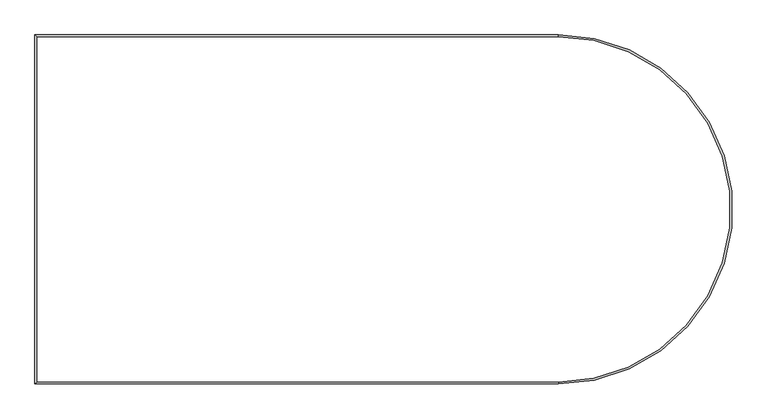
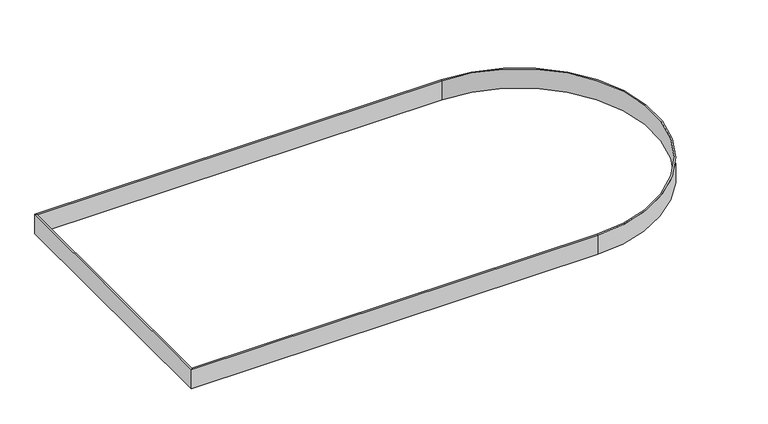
"""IFC4 building model written with IfcOpenShell, lengths in millimetres: railing geometry, ROLS_ISOMARKET_Лента демпферная Energofloor 10/0,15-11."""

from ifc_helpers import new_model, si_unit, frame, origin, place, context, project, spatial, polyline, circle_curve, source, transform, mapped, element, save
from ifc_brep_helpers import plane_surface, cylinder_surface, revolved_surface, advanced_brep


def railing_875232dc(model_context):
    return source(origin(), model_context, "Body", "AdvancedBrep", [
        advanced_brep(
        [(-17115.4270794, 14792.1606264, 0.0), (-17105.4270794, 14782.1606264, 0.0), (-17105.4270794, 12802.1606264, 0.0), (-17115.4270794, 12792.1606264, 0.0), (-17115.4270794, 14792.1606264, 150.0), (-17115.4270794, 12792.1606264, 150.0), (-17105.4270794, 14782.1606264, 150.0), (-17105.4270794, 12802.1606264, 150.0), (-14115.4270794, 12802.1606264, 0.0), (-14115.4270794, 12792.1606264, 0.0), (-14115.4270794, 12792.1606264, 150.0), (-14115.4270794, 12802.1606264, 150.0), (-14115.4270794, 14792.1606264, 0.0), (-14115.4270794, 14782.1606264, 0.0), (-14115.4270794, 14792.1606264, 150.0), (-14115.4270794, 14782.1606264, 150.0)],
        [
            (0, 1),
            (1, 2),
            (2, 3),
            (3, 0),
            (4, 0),
            (3, 5),
            (5, 4),
            (6, 4),
            (5, 7),
            (7, 6),
            (1, 6),
            (7, 2),
            (2, 8),
            (8, 9),
            (9, 3),
            (9, 10),
            (10, 5),
            (10, 11),
            (11, 7),
            (11, 8),
            (12, 9, circle_curve(frame((-14115.4270794, 13792.1606264, 0.0), z_axis=(0.0, 0.0, -1.0), x_axis=(0.0, -1.0, 0.0)), 1000.0)),
            (8, 13, circle_curve(frame((-14115.4270794, 13792.1606264, 0.0), z_axis=(0.0, 0.0, 1.0), x_axis=(0.0, -1.0, 0.0)), 990.0)),
            (13, 12),
            (14, 10, circle_curve(frame((-14115.4270794, 13792.1606264, 150.0), z_axis=(0.0, 0.0, -1.0), x_axis=(0.0, -1.0, 0.0)), 1000.0)),
            (12, 14),
            (15, 11, circle_curve(frame((-14115.4270794, 13792.1606264, 150.0), z_axis=(0.0, 0.0, -1.0), x_axis=(0.0, -1.0, 0.0)), 990.0)),
            (14, 15),
            (15, 13),
            (13, 1),
            (0, 12),
            (4, 14),
            (6, 15),
        ],
        [
            plane_surface(frame((-17105.4270794, 14782.1606264, 0.0), z_axis=(0.0, 0.0, -1.0), x_axis=(0.0, -1.0, 0.0))),
            plane_surface(frame((-17115.4270794, 14792.1606264, 0.0), z_axis=(-1.0, 0.0, 0.0), x_axis=(0.0, -1.0, 0.0))),
            plane_surface(frame((-17115.4270794, 14792.1606264, 150.0), z_axis=(0.0, 0.0, 1.0), x_axis=(0.0, -1.0, 0.0))),
            plane_surface(frame((-17105.4270794, 14782.1606264, 150.0), z_axis=(1.0, 0.0, 0.0), x_axis=(0.0, -1.0, 0.0))),
            plane_surface(frame((-17105.4270794, 12802.1606264, 0.0), z_axis=(0.0, 0.0, -1.0), x_axis=(1.0, 0.0, 0.0))),
            plane_surface(frame((-17115.4270794, 12792.1606264, 0.0), z_axis=(0.0, -1.0, 0.0), x_axis=(1.0, 0.0, 0.0))),
            plane_surface(frame((-17115.4270794, 12792.1606264, 150.0), z_axis=(0.0, 0.0, 1.0), x_axis=(1.0, 0.0, 0.0))),
            plane_surface(frame((-17105.4270794, 12802.1606264, 150.0), z_axis=(0.0, 1.0, 0.0), x_axis=(1.0, 0.0, 0.0))),
            plane_surface(frame((-14115.4270794, 13792.1606264, 0.0), z_axis=(0.0, 0.0, -1.0), x_axis=(0.0, -1.0, 0.0))),
            cylinder_surface(frame((-14115.4270794, 13792.1606264, 150.0), z_axis=(0.0, 0.0, 1.0), x_axis=(0.0, -1.0, 0.0)), 1000.0),
            plane_surface(frame((-14115.4270794, 13792.1606264, 150.0), z_axis=(0.0, 0.0, 1.0), x_axis=(0.0, -1.0, 0.0))),
            revolved_surface(polyline([(-14115.4270794, 12802.1606264, 150.0), (-14115.4270794, 12802.1606264, 0.0)]), (-14115.4270794, 13792.1606264, 150.0), (0.0, 0.0, 1.0)),
            plane_surface(frame((-14115.4270794, 14782.1606264, 0.0), z_axis=(0.0, 0.0, -1.0), x_axis=(-1.0, 0.0, 0.0))),
            plane_surface(frame((-14115.4270794, 14792.1606264, 0.0), z_axis=(0.0, 1.0, 0.0), x_axis=(-1.0, 0.0, 0.0))),
            plane_surface(frame((-14115.4270794, 14792.1606264, 150.0), z_axis=(0.0, 0.0, 1.0), x_axis=(-1.0, 0.0, 0.0))),
            plane_surface(frame((-14115.4270794, 14782.1606264, 150.0), z_axis=(0.0, -1.0, 0.0), x_axis=(-1.0, 0.0, 0.0))),
        ],
        [
            (0, [[1, 2, 3, 4]]),
            (1, [[5, -4, 6, 7]]),
            (2, [[8, -7, 9, 10]]),
            (3, [[11, -10, 12, -2]]),
            (4, [[-3, 13, 14, 15]]),
            (5, [[-6, -15, 16, 17]]),
            (6, [[-9, -17, 18, 19]]),
            (7, [[-12, -19, 20, -13]]),
            (8, [[21, -14, 22, 23]]),
            (9, [[24, -16, -21, 25]]),
            (10, [[26, -18, -24, 27]]),
            (11, [[-22, -20, -26, 28]]),
            (12, [[-23, 29, -1, 30]]),
            (13, [[-25, -30, -5, 31]]),
            (14, [[-27, -31, -8, 32]]),
            (15, [[-28, -32, -11, -29]]),
        ],
    ),
    ])


if __name__ == "__main__":
    model = new_model("IFC4")
    model_context = context("Model", 3, world=origin())
    ifc_project = project(units=[si_unit("LENGTHUNIT", "METRE", prefix="MILLI")], contexts=[model_context])
    site = spatial("IfcSite", under=ifc_project)
    building = spatial("IfcBuilding", under=site)
    placement = place(None, origin())
    railing_shape = railing_875232dc(model_context)
    element("IfcRailing", 1, ObjectType="ROLS_ISOMARKET_Лента демпферная Energofloor 10/0,15-11", at=placement, inside=building, context=model_context, shape_type="MappedRepresentation", body=[
        mapped(railing_shape, transform((0.0, 0.0, 0.0), x_axis=(1.0, 0.0, 0.0), y_axis=(0.0, 1.0, 0.0), z_axis=(0.0, 0.0, 1.0))),
    ])
    save(model, "model.ifc")
